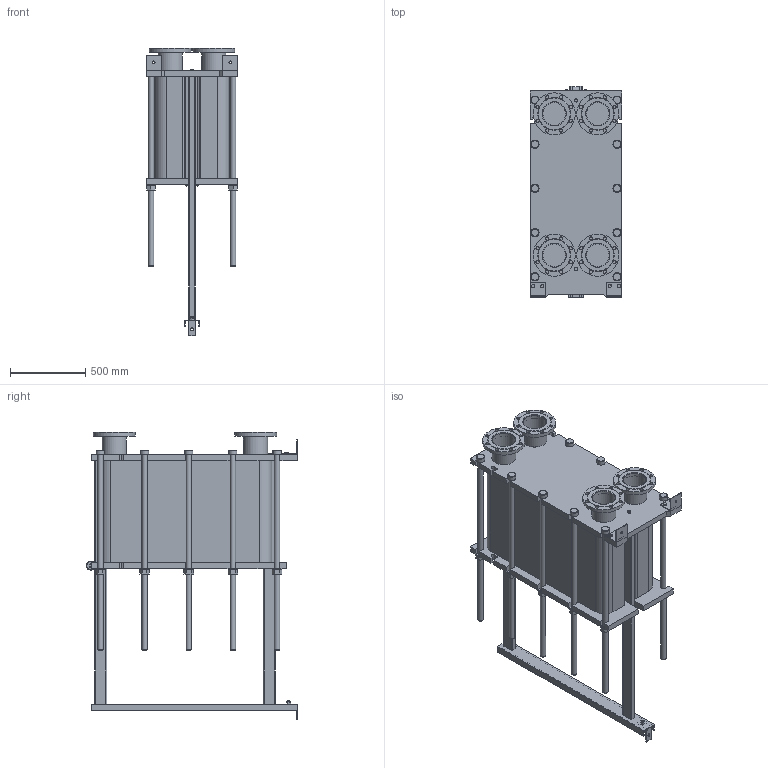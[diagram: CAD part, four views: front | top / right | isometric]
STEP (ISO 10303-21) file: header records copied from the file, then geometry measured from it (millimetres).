
FILE_DESCRIPTION(/* description */ (''),/* implementation_level */ '2;1');
FILE_NAME(/* name */ 'C:\Users\zhuro\Desktop\ENCO\TO\ЭН-041\ЭН-0,5-041-197-1.stp',/* time_stamp */ '2022-06-06T11:06:08+03:00',/* author */ ('zhuro'),/* organization */ (''),/* preprocessor_version */ 'ST-DEVELOPER v18.1',/* originating_system */ 'Autodesk Inventor 2022',/* authorisation */ '');
FILE_SCHEMA (('AUTOMOTIVE_DESIGN { 1 0 10303 214 3 1 1 }'));
Length unit declared in the file: millimetre
Products named in the file (1): ЭН-0,5-041-197-1
Bounding box: 610 x 1406.5 x 1917.5 mm (x, y, z)
Volume: 469550086.6 mm3; surface area: 11163281.6 mm2
Topology: 52 solids, 52 shells, 711 faces, 1696 edges, 1094 vertices
Faces by surface type: plane 487, cylinder 177, cone 41, torus 6
Full cylindrical faces by diameter (mm): 8 x4, 10 x2, 16 x8, 18 x3, 22 x32, 36 x24, 50 x1, 54 x10, 60 x12, 151 x4, 161 x8, 280 x4
Entity records: 22667 total; most frequent: CARTESIAN_POINT 5230, DIRECTION 3644, ORIENTED_EDGE 3392, EDGE_CURVE 1696, AXIS2_PLACEMENT_3D 1272, LINE 1100, VECTOR 1100, VERTEX_POINT 1094
